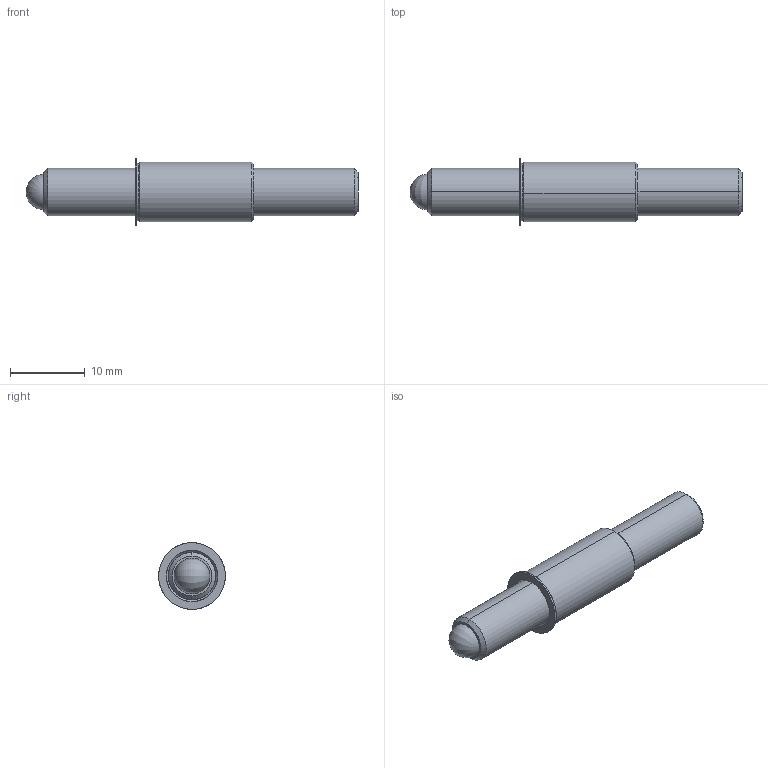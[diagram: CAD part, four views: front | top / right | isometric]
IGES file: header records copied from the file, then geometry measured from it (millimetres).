
Start section: SolidWorks IGES file using analytic representation for surfaces
Global section: file name: C:\Users\workpc\Desktop\KMA Solidworks\TSB250-80-1750_625-AA.IGS; native system: SolidWorks 2013; preprocessor: SolidWorks 2013; author: workpc; date: 130314.085435; units: inch
Bounding box: 44.45 x 8.93 x 8.93 mm (x, y, z)
Surface area: 1419.4 mm2 (no closed solid volume)
Topology: 0 solids, 0 shells, 33 faces, 406 edges, 402 vertices
Faces by surface type: revolution 22, bspline 11
